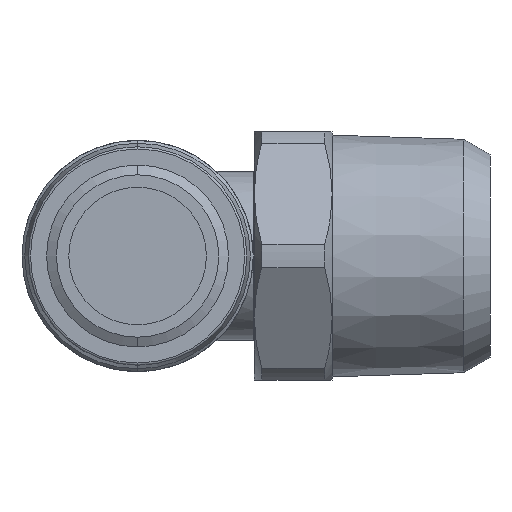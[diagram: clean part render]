
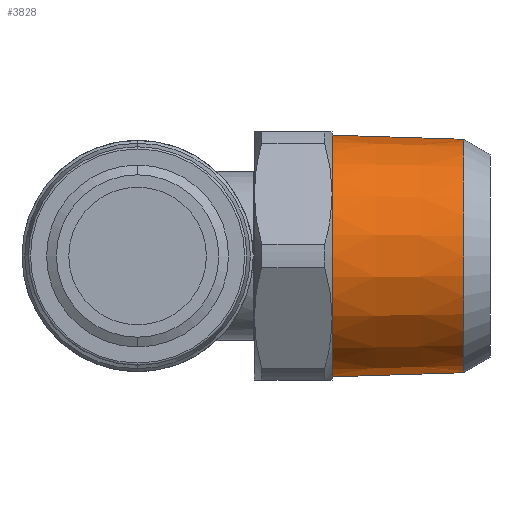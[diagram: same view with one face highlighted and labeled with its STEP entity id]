
A CAD part, left-side view. The second image highlights one B-rep face of the part: STEP entity #3828.
In plain terms, the highlighted conical face has half-angle 1.78 degrees and reference radius 10.35 mm.
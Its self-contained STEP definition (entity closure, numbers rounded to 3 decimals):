
#81 = CIRCLE ( 'NONE', #4164, 10.712 ) ;
#354 = ORIENTED_EDGE ( 'NONE', *, *, #4176, .F. ) ;
#535 = CARTESIAN_POINT ( 'NONE',  ( 0., -18.662, 10.35 ) ) ;
#839 = CARTESIAN_POINT ( 'NONE',  ( 0., -7., -10.712 ) ) ;
#892 = EDGE_CURVE ( 'NONE', #1980, #3166, #4658, .T. ) ;
#945 = CARTESIAN_POINT ( 'NONE',  ( 0., -18.662, 10.35 ) ) ;
#1165 = CARTESIAN_POINT ( 'NONE',  ( 0., -18.662, -10.35 ) ) ;
#1447 = CARTESIAN_POINT ( 'NONE',  ( 0., -18.662, 0. ) ) ;
#1554 = DIRECTION ( 'NONE',  ( 0., -1., 0. ) ) ;
#1763 = ORIENTED_EDGE ( 'NONE', *, *, #3821, .T. ) ;
#1938 = DIRECTION ( 'NONE',  ( 0., 0., -1. ) ) ;
#1980 = VERTEX_POINT ( 'NONE', #945 ) ;
#2070 = DIRECTION ( 'NONE',  ( 0., 0., -1. ) ) ;
#2265 = EDGE_CURVE ( 'NONE', #6214, #5671, #5564, .T. ) ;
#2602 = CONICAL_SURFACE ( 'NONE', #5761, 10.35, 0.031 ) ;
#2799 = CARTESIAN_POINT ( 'NONE',  ( 0., -18.662, -10.35 ) ) ;
#3142 = VECTOR ( 'NONE', #3812, 1000. ) ;
#3166 = VERTEX_POINT ( 'NONE', #4051 ) ;
#3738 = DIRECTION ( 'NONE',  ( 0., 0., 1. ) ) ;
#3812 = DIRECTION ( 'NONE',  ( 0., 1., 0.031 ) ) ;
#3821 = EDGE_CURVE ( 'NONE', #3166, #5671, #81, .T. ) ;
#3828 = ADVANCED_FACE ( 'NONE', ( #5499 ), #2602, .T. ) ;
#4051 = CARTESIAN_POINT ( 'NONE',  ( 0., -7., 10.712 ) ) ;
#4164 = AXIS2_PLACEMENT_3D ( 'NONE', #5346, #1554, #2070 ) ;
#4176 = EDGE_CURVE ( 'NONE', #1980, #6214, #5169, .T. ) ;
#4592 = EDGE_LOOP ( 'NONE', ( #4904, #354, #6319, #1763 ) ) ;
#4625 = VECTOR ( 'NONE', #4932, 1000. ) ;
#4658 = LINE ( 'NONE', #535, #3142 ) ;
#4795 = CARTESIAN_POINT ( 'NONE',  ( 0., -18.662, 0. ) ) ;
#4904 = ORIENTED_EDGE ( 'NONE', *, *, #2265, .F. ) ;
#4932 = DIRECTION ( 'NONE',  ( 0., 1., -0.031 ) ) ;
#5169 = CIRCLE ( 'NONE', #6296, 10.35 ) ;
#5346 = CARTESIAN_POINT ( 'NONE',  ( 0., -7., 0. ) ) ;
#5499 = FACE_OUTER_BOUND ( 'NONE', #4592, .T. ) ;
#5564 = LINE ( 'NONE', #2799, #4625 ) ;
#5671 = VERTEX_POINT ( 'NONE', #839 ) ;
#5709 = DIRECTION ( 'NONE',  ( 0., -1., 0. ) ) ;
#5761 = AXIS2_PLACEMENT_3D ( 'NONE', #4795, #6432, #3738 ) ;
#6214 = VERTEX_POINT ( 'NONE', #1165 ) ;
#6296 = AXIS2_PLACEMENT_3D ( 'NONE', #1447, #5709, #1938 ) ;
#6319 = ORIENTED_EDGE ( 'NONE', *, *, #892, .T. ) ;
#6432 = DIRECTION ( 'NONE',  ( 0., 1., 0. ) ) ;
